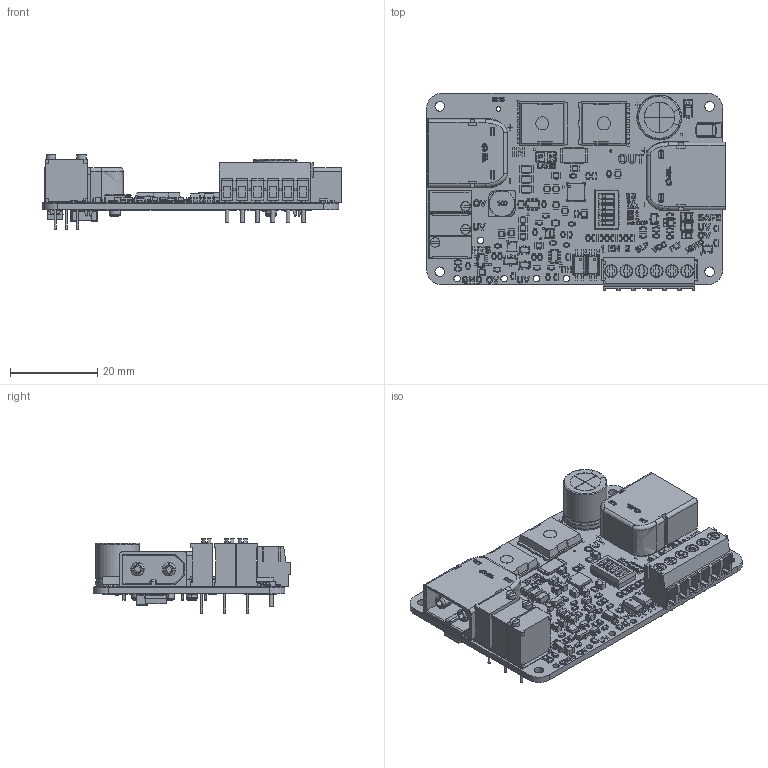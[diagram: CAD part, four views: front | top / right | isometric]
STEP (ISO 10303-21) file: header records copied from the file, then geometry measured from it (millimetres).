
FILE_DESCRIPTION(('KiCad electronic assembly'),'2;1');
FILE_NAME('Electronic Circuit Breaker G5V3.step','2026-04-11T03:58:22',( 'Pcbnew'),('Kicad'),'Open CASCADE STEP processor 7.9', 'KiCad to STEP converter','Unknown');
FILE_SCHEMA(('AUTOMOTIVE_DESIGN { 1 0 10303 214 1 1 1 1 }'));
Length unit declared in the file: millimetre
Products named in the file (33): Electronic Circuit Breaker G5V3 1; C_0805_2012Metric; R_0603_1608Metric; SOP-4_4.4x2.6mm_P1.27mm; SOT-23-5_L2.9-W1.6-P0.95-LS2.8-BR; D_SMA; C_1206_3216Metric; WSON-8_L2.0-W2.0-H0.8-P0.50; LED_0805_2012Metric; CONN-TH_XT60PW-M; TerminalBlock_Phoenix_PT-1,5-6-3.5-H_1x06_P3.50mm_Horizontal; WSON-6-1EP_2x2mm_P0.65mm_EP1x1.6mm; R_2512_6332Metric; Infineon_PG-HSOF-8-1; Electronic Circuit Breaker G5V3 1.26.1; IND-SMD_L6.0-W6.0-H2.0_SMRH5D28; Potentiometer_Bourns_3296W_Vertical; SOT-323_SC-70; SOT-23-6; SOT-23; QFN-24_4x4mm_P0.5mm; CP_Radial_D10.0mm_P5.00mm; D_0805_2012Metric; TSOT-23-8; 6xSPST_DSHP-06-TJ-GER; D_SOD-323; LED_0603_1608Metric; D_SOD-123; FUSE-SMD_L6.1-W2.6-H2.6; D_SMB; Electronic Circuit Breaker G5V3_silkscreen; Electronic Circuit Breaker G5V3_PCB
Assembly tree (103 placements, depth 3):
  Electronic Circuit Breaker G5V3 1
    C_0805_2012Metric  x17
    R_0603_1608Metric  x46
    SOP-4_4.4x2.6mm_P1.27mm  x2
    SOT-23-5_L2.9-W1.6-P0.95-LS2.8-BR
    D_SMA
    C_1206_3216Metric  x3
    WSON-8_L2.0-W2.0-H0.8-P0.50
    LED_0805_2012Metric
    CONN-TH_XT60PW-M  x2
    TerminalBlock_Phoenix_PT-1,5-6-3.5-H_1x06_P3.50mm_Horizontal
    WSON-6-1EP_2x2mm_P0.65mm_EP1x1.6mm
    R_2512_6332Metric
    Infineon_PG-HSOF-8-1  x2
      Electronic Circuit Breaker G5V3 1.26.1
    IND-SMD_L6.0-W6.0-H2.0_SMRH5D28
    Potentiometer_Bourns_3296W_Vertical  x3
    SOT-323_SC-70  x4
    SOT-23-6
    SOT-23
    QFN-24_4x4mm_P0.5mm
    CP_Radial_D10.0mm_P5.00mm
    D_0805_2012Metric
    TSOT-23-8
    6xSPST_DSHP-06-TJ-GER
    D_SOD-323
    LED_0603_1608Metric
    D_SOD-123
    FUSE-SMD_L6.1-W2.6-H2.6
    D_SMB
    Electronic Circuit Breaker G5V3_silkscreen
    Electronic Circuit Breaker G5V3_silkscreen
    Electronic Circuit Breaker G5V3_PCB
Bounding box: 68.61 x 45.36 x 17.07 mm (x, y, z)
Volume: 11621.2 mm3; surface area: 16306.8 mm2
Topology: 146 solids, 486 shells, 6877 faces, 22406 edges, 16379 vertices
Faces by surface type: plane 4656, cylinder 1166, bspline 953, sphere 36, torus 34, cone 28, revolution 4
Full cylindrical faces by diameter (mm): 0.2 x9, 0.25 x1, 0.3 x2, 0.5 x5, 0.51 x9, 0.7 x2, 0.8 x9, 0.9 x6, 1 x3, 1.2 x6, 1.5 x5, 2.19 x3, 2.2 x4, 2.7 x10, 2.9 x6, 3 x2
Entity records: 206959 total; most frequent: CARTESIAN_POINT 48467, ORIENTED_EDGE 25967, DIRECTION 23201, EDGE_CURVE 15610, LINE 12021, VECTOR 12021, VERTEX_POINT 11997, AXIS2_PLACEMENT_3D 5588
